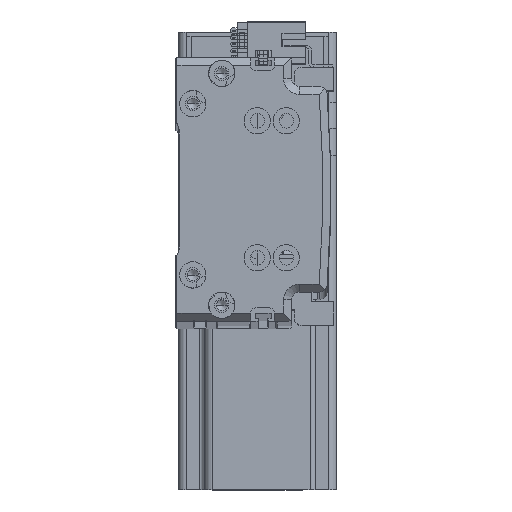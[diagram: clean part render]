
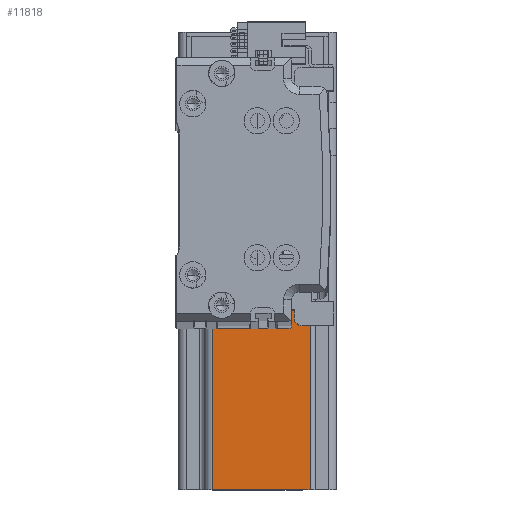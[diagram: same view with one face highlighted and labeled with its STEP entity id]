
A CAD part, top view. The second image highlights one B-rep face of the part: STEP entity #11818.
In plain terms, the highlighted planar face has unit normal (0, 0, 1) as drawn and (-1, 0, 0) by its records, which use the part's own axes.
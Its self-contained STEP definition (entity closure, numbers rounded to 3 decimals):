
#1155 = CARTESIAN_POINT ( 'NONE',  ( -30., 27., 10. ) ) ;
#1574 = DIRECTION ( 'NONE',  ( 0., 1., 0. ) ) ;
#2258 = VERTEX_POINT ( 'NONE', #12383 ) ;
#3230 = VERTEX_POINT ( 'NONE', #1155 ) ;
#3472 = EDGE_CURVE ( 'NONE', #38931, #14272, #51608, .T. ) ;
#5461 = EDGE_CURVE ( 'NONE', #3230, #38931, #52644, .T. ) ;
#7144 = DIRECTION ( 'NONE',  ( 0., -1., 0. ) ) ;
#8556 = EDGE_LOOP ( 'NONE', ( #28136, #52793, #60302, #34591, #15252, #50440, #60734, #22545 ) ) ;
#10708 = CARTESIAN_POINT ( 'NONE',  ( -30., -17., 137. ) ) ;
#11572 = VERTEX_POINT ( 'NONE', #46881 ) ;
#11818 = ADVANCED_FACE ( 'NONE', ( #25159 ), #53489, .F. ) ;
#12383 = CARTESIAN_POINT ( 'NONE',  ( -30., -27., 10. ) ) ;
#12426 = CARTESIAN_POINT ( 'NONE',  ( -30., 27., 137. ) ) ;
#14272 = VERTEX_POINT ( 'NONE', #56048 ) ;
#15252 = ORIENTED_EDGE ( 'NONE', *, *, #58803, .T. ) ;
#15810 = DIRECTION ( 'NONE',  ( 1., 0., 0. ) ) ;
#15848 = EDGE_CURVE ( 'NONE', #14272, #2258, #24843, .T. ) ;
#16618 = LINE ( 'NONE', #58232, #40270 ) ;
#17400 = DIRECTION ( 'NONE',  ( 0., 0., -1. ) ) ;
#20903 = VECTOR ( 'NONE', #34907, 1000. ) ;
#21082 = LINE ( 'NONE', #27505, #44767 ) ;
#22545 = ORIENTED_EDGE ( 'NONE', *, *, #15848, .T. ) ;
#24843 = LINE ( 'NONE', #31649, #47036 ) ;
#25159 = FACE_OUTER_BOUND ( 'NONE', #8556, .T. ) ;
#27505 = CARTESIAN_POINT ( 'NONE',  ( -30., 20., 10. ) ) ;
#27654 = CARTESIAN_POINT ( 'NONE',  ( -30., -30., 10. ) ) ;
#28136 = ORIENTED_EDGE ( 'NONE', *, *, #36853, .F. ) ;
#31198 = EDGE_CURVE ( 'NONE', #11572, #56607, #46073, .T. ) ;
#31649 = CARTESIAN_POINT ( 'NONE',  ( -30., -27., 137. ) ) ;
#31804 = AXIS2_PLACEMENT_3D ( 'NONE', #44133, #15810, #48919 ) ;
#31843 = CARTESIAN_POINT ( 'NONE',  ( -30., -17., 137. ) ) ;
#32269 = DIRECTION ( 'NONE',  ( 0., 0., 1. ) ) ;
#32406 = DIRECTION ( 'NONE',  ( 0., -1., 0. ) ) ;
#34591 = ORIENTED_EDGE ( 'NONE', *, *, #57881, .F. ) ;
#34907 = DIRECTION ( 'NONE',  ( 0., -1., 0. ) ) ;
#35276 = CARTESIAN_POINT ( 'NONE',  ( -30., -17., 10. ) ) ;
#35500 = CARTESIAN_POINT ( 'NONE',  ( -30., -30., 0. ) ) ;
#36853 = EDGE_CURVE ( 'NONE', #46548, #2258, #39713, .T. ) ;
#37085 = VECTOR ( 'NONE', #41357, 1000. ) ;
#38193 = VECTOR ( 'NONE', #32406, 1000. ) ;
#38484 = VERTEX_POINT ( 'NONE', #60538 ) ;
#38931 = VERTEX_POINT ( 'NONE', #49103 ) ;
#39713 = LINE ( 'NONE', #27654, #38193 ) ;
#40060 = VECTOR ( 'NONE', #17400, 1000. ) ;
#40270 = VECTOR ( 'NONE', #1574, 1000. ) ;
#41357 = DIRECTION ( 'NONE',  ( 0., 0., 1. ) ) ;
#44082 = EDGE_CURVE ( 'NONE', #46548, #56607, #49673, .T. ) ;
#44133 = CARTESIAN_POINT ( 'NONE',  ( -30., -30., 137. ) ) ;
#44767 = VECTOR ( 'NONE', #32269, 1000. ) ;
#46073 = LINE ( 'NONE', #49168, #20903 ) ;
#46548 = VERTEX_POINT ( 'NONE', #35276 ) ;
#46881 = CARTESIAN_POINT ( 'NONE',  ( -30., 20., 137. ) ) ;
#47036 = VECTOR ( 'NONE', #55265, 1000. ) ;
#48919 = DIRECTION ( 'NONE',  ( 0., 0., -1. ) ) ;
#49103 = CARTESIAN_POINT ( 'NONE',  ( -30., 27., 0. ) ) ;
#49168 = CARTESIAN_POINT ( 'NONE',  ( -30., -30., 137. ) ) ;
#49673 = LINE ( 'NONE', #31843, #37085 ) ;
#50134 = VECTOR ( 'NONE', #7144, 1000. ) ;
#50440 = ORIENTED_EDGE ( 'NONE', *, *, #5461, .T. ) ;
#51608 = LINE ( 'NONE', #35500, #50134 ) ;
#52644 = LINE ( 'NONE', #12426, #40060 ) ;
#52793 = ORIENTED_EDGE ( 'NONE', *, *, #44082, .T. ) ;
#53489 = PLANE ( 'NONE',  #31804 ) ;
#55265 = DIRECTION ( 'NONE',  ( 0., 0., 1. ) ) ;
#56048 = CARTESIAN_POINT ( 'NONE',  ( -30., -27., 0. ) ) ;
#56607 = VERTEX_POINT ( 'NONE', #10708 ) ;
#57881 = EDGE_CURVE ( 'NONE', #38484, #11572, #21082, .T. ) ;
#58232 = CARTESIAN_POINT ( 'NONE',  ( -30., 30., 10. ) ) ;
#58803 = EDGE_CURVE ( 'NONE', #38484, #3230, #16618, .T. ) ;
#60302 = ORIENTED_EDGE ( 'NONE', *, *, #31198, .F. ) ;
#60538 = CARTESIAN_POINT ( 'NONE',  ( -30., 20., 10. ) ) ;
#60734 = ORIENTED_EDGE ( 'NONE', *, *, #3472, .T. ) ;
